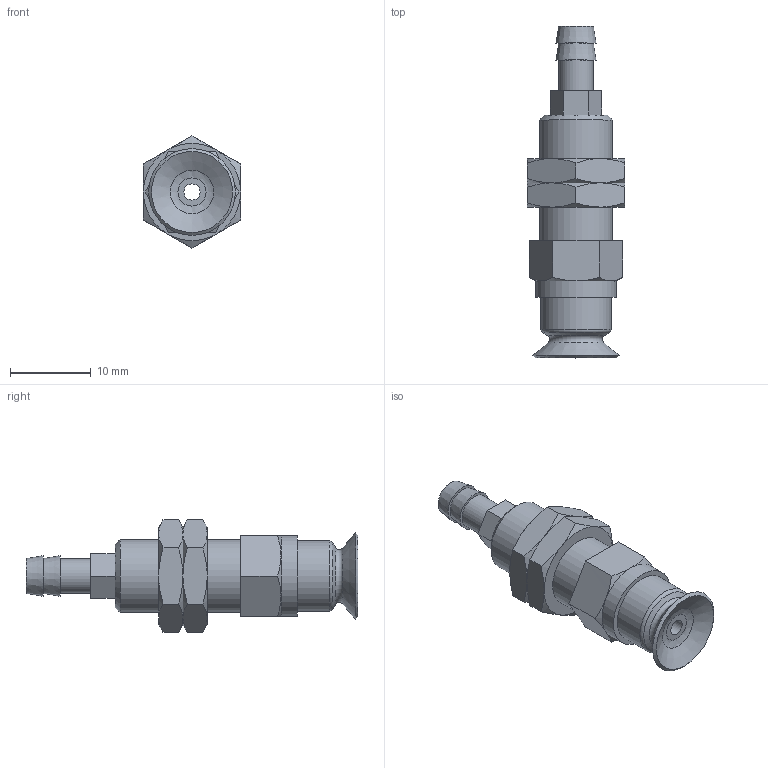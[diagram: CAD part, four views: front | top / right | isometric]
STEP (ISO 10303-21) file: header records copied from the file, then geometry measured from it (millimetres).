
FILE_DESCRIPTION(('STEP AP203'),'1');
FILE_NAME('.stp','2025-04-07T01:28:29',(' '),(' '),'Spatial InterOp 3D',' ',' ');
FILE_SCHEMA(('CONFIG_CONTROL_DESIGN'));
Length unit declared in the file: millimetre
Products named in the file (4): BBPFTK-10A-※; NUT-10A; PFTK-10A; BPFG-10A-※
Assembly tree (4 placements, depth 2):
  BBPFTK-10A-※
    NUT-10A  x2
    PFTK-10A
    BPFG-10A-※
Bounding box: 12 x 41 x 13.86 mm (x, y, z)
Volume: 2221.9 mm3; surface area: 2621.7 mm2
Topology: 4 solids, 4 shells, 109 faces, 226 edges, 136 vertices
Faces by surface type: cone 43, plane 43, cylinder 14, torus 8, bspline 1
Full cylindrical faces by diameter (mm): 2 x1, 3 x2, 4 x2, 4.134 x1, 4.3 x1, 6 x2, 7.917 x2, 8.7 x1, 9 x1, 10 x1
Entity records: 2537 total; most frequent: CARTESIAN_POINT 704, DIRECTION 346, ORIENTED_EDGE 274, AXIS2_PLACEMENT_3D 155, EDGE_CURVE 137, EDGE_LOOP 136, FACE_OUTER_BOUND 108, VERTEX_POINT 101
